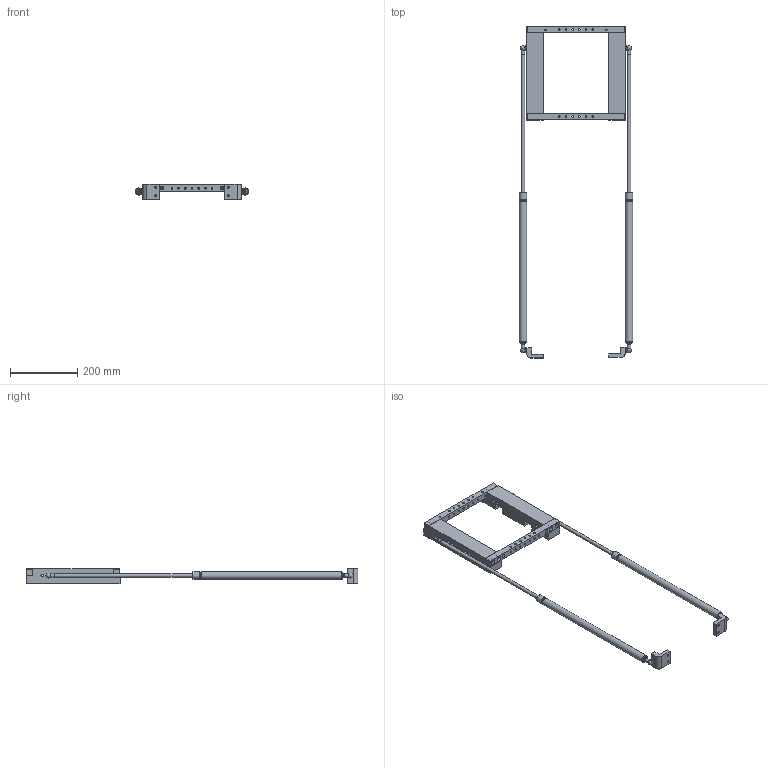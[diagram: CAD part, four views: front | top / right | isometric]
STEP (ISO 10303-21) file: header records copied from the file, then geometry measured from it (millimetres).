
FILE_DESCRIPTION(/* description */ (''),/* implementation_level */ '2;1');
FILE_NAME(/* name */ 'Gas-Spring-Assist-Assembly-Web.step',/* time_stamp */ '2023-12-22T13:01:21-05:00',/* author */ (''),/* organization */ (''),/* preprocessor_version */ 'ST-DEVELOPER v20',/* originating_system */ 'Autodesk Translation Framework v12.14.0.127',/* authorisation */ '');
FILE_SCHEMA (('AUTOMOTIVE_DESIGN { 1 0 10303 214 3 1 1 }'));
Length unit declared in the file: millimetre
Products named in the file (6): Gas-Spring-Assist-Assembly-Web; Air-Spring-Spindle-Left; Air-Spring-Spindle-Top-and-Bottom; Air-Spring-Spindle-Right; 4138T841_Gas Spring; Air-Spring-Base-V2
Assembly tree (8 placements, depth 2):
  Gas-Spring-Assist-Assembly-Web
    Air-Spring-Spindle-Left
    Air-Spring-Spindle-Top-and-Bottom  x2
    Air-Spring-Spindle-Right
    4138T841_Gas Spring  x2
    Air-Spring-Base-V2  x2
Bounding box: 337.62 x 988.92 x 47.5 mm (x, y, z)
Volume: 1617259.8 mm3; surface area: 347305.5 mm2
Topology: 22 solids, 22 shells, 468 faces, 1132 edges, 744 vertices
Faces by surface type: cylinder 218, plane 172, torus 30, cone 28, sphere 12, bspline 8
Full cylindrical faces by diameter (mm): 0.953 x12, 5 x34, 6.167 x36, 6.5 x4, 8 x64, 8.83 x4, 9.906 x2, 10 x12, 10.1 x4, 10.206 x2, 11 x8, 11.113 x4, 12.954 x2, 15 x8, 21.59 x4
Entity records: 11886 total; most frequent: CARTESIAN_POINT 5341, DIRECTION 1314, ORIENTED_EDGE 1274, EDGE_CURVE 637, AXIS2_PLACEMENT_3D 524, VERTEX_POINT 426, EDGE_LOOP 399, FACE_OUTER_BOUND 267
